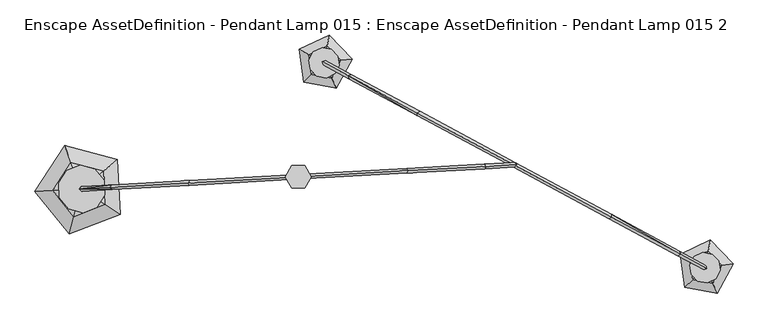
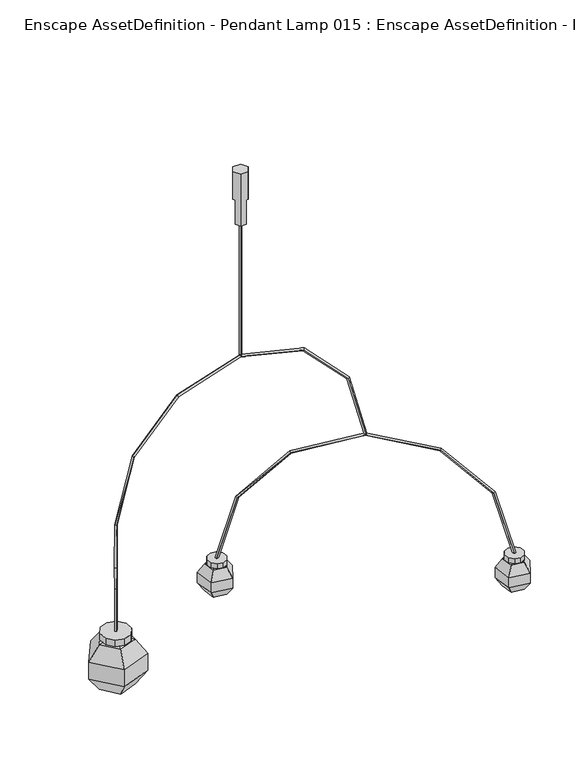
"""IFC4 building model written with IfcOpenShell, lengths in millimetres: geographic element geometry, Enscape AssetDefinition - Pendant Lamp 015 : Enscape AssetDefinition - Pendant Lamp 015 2."""

from ifc_helpers import new_model, si_unit, origin, place, context, project, spatial, triangles, source, transform, mapped, element, save


def enscape_assetdefinition_pendant_lamp_015_enscape_c86082a4(model_context):
    return source(origin(), model_context, "Body", "Tessellation", [
        triangles([(-557.8512691, 74.5107181, -1919.3690357), (-431.7176165, 41.1859263, -1919.3690357), (-431.7176165, 41.1859263, -1847.2525074), (-460.0654138, -66.1098365, -1977.7146023), (-424.4340494, -89.0720068, -1919.3690357), (-464.5664472, 14.3947598, -1977.7146023), (-535.2386959, -95.2678496, -1977.7146023), (-586.1991028, -32.7850469, -1977.7146023), (-517.7176723, -28.9560496, -1999.9998699), (-546.0666687, -136.2518123, -1919.3690357), (-628.5235542, -35.1518901, -1919.3690357), (-542.5222993, 34.9900881, -1977.7146023), (-424.4340494, -89.0720068, -1847.2525074), (-535.2386959, -95.2678496, -1788.9079582), (-546.0666687, -136.2518123, -1847.2525074), (-628.5235542, -35.1518901, -1847.2525074), (-557.8512691, 74.5107181, -1847.2525074), (-586.1991028, -32.7850469, -1788.9079582), (-517.7176723, -28.9560496, -1766.6213825), (-460.0654138, -66.1098365, -1788.9079582), (-464.5664472, 14.3947598, -1788.9079582), (-542.5222993, 34.9900881, -1788.9079582), (128.4402888, 282.1481668, -1892.750457), (128.4402888, 282.1481668, -1936.475695), (73.8115284, 339.3539955, -1892.7491489), (90.9156352, 212.5140451, -1936.475695), (90.9156352, 212.5140451, -1892.750457), (102.9695324, 278.7136381, -1971.850716), (79.7782427, 235.6769845, -1971.850716), (61.7564503, 273.1555653, -1985.363118), (69.2065769, 314.0686566, -1971.850716), (73.8115284, 339.3539955, -1936.475695), (31.681937, 244.435734, -1971.850716), (13.0932324, 226.685582, -1892.750457), (13.0932324, 226.685582, -1936.475695), (25.1483128, 292.8840122, -1971.850716), (2.5227444, 305.0772723, -1936.475695), (31.681937, 244.435734, -1857.3751453), (25.1483128, 292.8840122, -1857.3751453), (2.5227444, 305.0772723, -1892.7491489), (79.7782427, 235.6769845, -1857.3751453), (61.7564503, 273.1555653, -1843.862598), (69.2065769, 314.0686566, -1857.3751453), (102.9695324, 278.7136381, -1857.3751453), (58.1246952, 268.5305569, -1836.8731991), (65.9751971, 270.8832294, -1836.9429623), (128.8371214, 237.0068633, -1578.7016029), (63.6225246, 278.7325504, -1836.8731991), (55.7732036, 276.3798597, -1836.8022732), (127.1753678, 244.4841504, -1575.7905888), (289.7211239, 150.3064141, -1395.1686195), (289.9077222, 156.7880861, -1390.1584602), (121.6775293, 234.2821568, -1575.7905888), (284.4098928, 146.5860925, -1390.1584602), (120.0169657, 241.7594439, -1572.8779758), (284.5965275, 153.0677463, -1385.1472836), (516.3240438, 28.1895425, -1325.2935242), (513.5757377, 23.0897243, -1319.498093), (748.1354393, -96.7323677, -1385.1461208), (519.0735489, 33.2917225, -1319.498093), (748.3231459, -90.2507139, -1390.1572975), (516.3240438, 28.1907234, -1313.7038246), (912.8011877, -185.4713099, -1572.8769585), (974.5234377, -212.1502955, -1836.8731991), (903.9798512, -180.7175484, -1578.6992775), (911.1394432, -177.9928237, -1575.7879726), (743.0119875, -93.9722255, -1395.1686195), (905.6415956, -188.1948355, -1575.7879726), (742.8252983, -100.4526984, -1390.1572975), (966.6740622, -214.5029499, -1836.9345325), (976.874893, -219.9995984, -1836.8117203), (969.0255175, -222.3522709, -1836.8731991), (-511.0104509, -28.580473, -1757.0960918), (-522.3320709, -29.2135216, -1756.9591816), (-516.3547468, -34.5589984, -1757.0276367), (-515.5870611, -34.5153033, -1576.6703316), (-516.2201257, -23.1924774, -1576.6703316), (-521.5643852, -29.1710051, -1576.7068119), (-516.9878114, -23.2349939, -1757.0276367), (-510.2415662, -28.5379565, -1576.6337059), (-517.7554971, -23.2786936, -1486.550687), (-511.7781366, -28.6229917, -1486.5152241), (-517.1224689, -34.6015171, -1486.550687), (-516.9878114, -23.2349939, -1306.1945446), (-523.1009557, -29.2560381, -1486.5871674), (-511.0624463, -28.5828347, -1306.9681892), (-439.6956905, -24.5932141, -1047.9605249), (-522.2801482, -29.2111576, -1305.4197372), (-516.3547468, -34.5589984, -1306.1945446), (-449.4855, -25.1400443, -1042.2618902), (-444.9064917, -19.2052185, -1045.1117889), (-260.3375432, -8.8851147, -859.4798784), (-444.2734634, -30.5280399, -1045.1117889), (-257.1769984, -14.3876733, -864.3824862), (-0.1346408, -0.0141727, -794.4896593), (-259.7044786, -20.2079371, -859.4798784), (-0.4204574, 5.6490102, -788.8193659), (260.2253225, 8.8650368, -862.5506212), (-262.8650052, -14.7053797, -854.576108), (262.8154079, 14.6888438, -857.6846392), (259.5922761, 20.1878598, -862.5506212), (0.2125908, -5.6738122, -788.8193659), (-0.0732257, -0.0106295, -783.1490725), (439.6531786, 24.5766794, -1056.6908787), (257.0022089, 14.3640521, -867.4166033), (449.4949471, 25.1270546, -1051.0820641), (516.1469107, 34.5330166, -1318.0430946), (444.2581301, 30.5138692, -1053.88589), (516.7799389, 23.210193, -1318.0430946), (444.8911946, 19.1898647, -1053.88589), (522.1253975, 29.1887207, -1317.9826332), (510.8025784, 28.5544889, -1318.1032654), (1012.7011946, -211.5396678, -1971.850716), (1038.1718782, -208.1051572, -1936.475695), (1038.1718782, -208.1051572, -1892.750457), (922.8247765, -263.5677239, -1936.475695), (1000.6460438, -277.7380799, -1936.475695), (989.5086422, -254.5751405, -1971.850716), (941.4123774, -245.8175719, -1971.850716), (971.4880852, -217.0965597, -1985.363118), (934.8786919, -197.3681309, -1971.850716), (922.8247765, -263.5677239, -1892.750457), (912.2543461, -185.1760699, -1936.475695), (983.5420006, -150.8981476, -1936.475695), (978.9382118, -176.1834683, -1971.850716), (912.2543461, -185.1760699, -1892.7491489), (934.8786919, -197.3693118, -1857.3751453), (1000.6460438, -277.7380799, -1892.750457), (941.4123774, -245.8175719, -1857.3751453), (978.9382118, -176.1834683, -1857.3751453), (983.5420006, -150.8981476, -1892.7491489), (989.5086422, -254.5751405, -1857.3751453), (1012.7011946, -211.5396678, -1857.3751453), (971.4880852, -217.0965597, -1843.862598), (-5.4895672, 0.0, -34.7680449), (-0.1039333, -5.3856337, -34.7680449), (5.2817009, 0.0, -788.7461872), (-0.1039333, -5.3856337, -788.7461872), (-0.1039333, 5.3856337, -34.7680449), (5.2817009, 0.0, -34.7680449), (-5.4895672, 0.0, -788.7461872), (-0.1039333, 5.3856337, -788.7461872), (-572.1007991, -14.2518531, -1783.9181465), (-572.1007991, -14.2518531, -1756.6873959), (-570.1225041, -49.6293244, -1783.9181465), (-547.7284132, -77.087791, -1756.6873959), (-570.1225041, -49.6293244, -1756.6873959), (-513.4706205, -86.1394369, -1783.9181465), (-547.7284132, -77.087791, -1783.9181465), (-513.4706205, -86.1394369, -1756.6873959), (-480.436336, -73.3261156, -1756.6873959), (-480.436336, -73.3261156, -1783.9181465), (-461.2417228, -43.5421415, -1756.6873959), (-461.2417228, -43.5421415, -1783.9181465), (-463.2200177, -8.163487, -1756.6873959), (-463.2200177, -8.163487, -1783.9181465), (-485.6152714, 19.2937964, -1783.9181465), (-519.8719377, 28.3454423, -1783.9181465), (-519.8719377, 28.3454423, -1756.6873959), (-485.6152714, 19.2937964, -1756.6873959), (-552.9073849, 15.5321222, -1783.9181465), (-552.9073849, 15.5321222, -1756.6873959), (87.116176, 246.5994282, -1833.3501583), (87.116176, 246.5994282, -1854.308036), (44.3369967, 240.8311575, -1854.308036), (97.8815345, 266.5770787, -1833.3501583), (97.8815345, 266.5770787, -1854.308036), (25.6313661, 279.73407, -1854.308036), (66.6637589, 236.765926, -1833.3501583), (66.6637589, 236.765926, -1854.308036), (28.6643296, 257.2431463, -1833.3501583), (28.6643296, 257.2431463, -1854.308036), (44.3369967, 240.8311575, -1833.3501583), (25.6313661, 279.73407, -1833.3501583), (36.39791, 299.7116841, -1833.3501583), (36.39791, 299.7116841, -1854.308036), (56.8503317, 309.5452409, -1854.308036), (56.8491463, 309.5452409, -1833.3501583), (94.849761, 289.0680206, -1854.308036), (79.1759085, 305.479973, -1854.308036), (79.1759085, 305.479973, -1833.3501583), (94.849761, 289.0680206, -1833.3501583), (996.4084391, -243.4165011, -1854.308036), (1007.1750057, -223.4388506, -1833.3501583), (1004.1419786, -200.9491078, -1833.3501583), (1007.1750057, -223.4388506, -1854.308036), (1004.1419786, -200.9491078, -1854.308036), (953.6303816, -249.18479, -1854.308036), (953.6303816, -249.18479, -1833.3501583), (975.9572165, -253.2511661, -1854.308036), (975.9572165, -253.2511661, -1833.3501583), (937.956629, -232.7727831, -1854.308036), (937.956629, -232.7727831, -1833.3501583), (996.4084391, -243.4165011, -1833.3501583), (934.9248373, -210.2830221, -1833.3501583), (966.1426266, -180.4707248, -1833.3501583), (945.6900959, -190.3053716, -1854.308036), (945.6900959, -190.3053716, -1833.3501583), (988.4692434, -184.53592, -1854.308036), (966.1426266, -180.4707248, -1854.308036), (934.9248373, -210.2830221, -1854.308036), (988.4692434, -184.53592, -1833.3501583), (-11.176372, -19.1780536, -225.5966404), (10.9673243, -19.1780536, -115.6198776), (15.2911849, -26.6647946, -115.6198776), (10.9673243, -19.1780536, -225.5966404), (22.0397612, 0.0, -225.5966404), (-11.176372, 19.1768727, -225.5966404), (-22.24881, 0.0, -225.5966404), (10.9673243, 19.1768727, -225.5966404), (10.9673243, 19.1768727, -115.6198776), (-11.176372, 19.1768727, -115.6198776), (-30.8941671, 0.0, -115.6198776), (-22.24881, 0.0, -115.6198776), (-11.176372, -19.1780536, -115.6198776), (-15.4990517, 26.6647946, -115.6198776), (15.2911849, 26.6647946, 0.0), (15.2911849, 26.6647946, -115.6198776), (-15.4990517, 26.6647946, 0.0), (-30.8941671, 0.0, 0.0), (30.6863037, 0.0, -115.6198776), (30.6863037, 0.0, 0.0), (22.0397612, 0.0, -115.6198776), (15.2911849, -26.6647946, 0.0), (-15.4990517, -26.6647946, 0.0), (-15.4990517, -26.6647946, -115.6198776)], [[226, 225, 220], [224, 225, 226], [220, 225, 224], [224, 226, 205], [223, 221, 205], [224, 222, 220], [222, 224, 205], [222, 205, 221], [217, 219, 220], [222, 217, 220], [218, 217, 222], [223, 218, 221], [218, 222, 221], [223, 211, 218], [216, 219, 217], [211, 216, 218], [216, 217, 218], [213, 220, 219], [213, 219, 216], [226, 220, 213], [215, 226, 213], [203, 215, 214], [215, 213, 214], [203, 214, 209], [211, 212, 216], [212, 214, 213], [212, 213, 216], [210, 211, 223], [212, 211, 210], [214, 212, 208], [203, 209, 208], [214, 208, 209], [212, 210, 208], [208, 210, 207], [210, 223, 207], [208, 207, 203], [207, 206, 203], [204, 205, 226], [207, 223, 204], [204, 215, 203], [204, 226, 215], [223, 205, 204], [207, 204, 206], [204, 203, 206], [202, 185, 187], [199, 187, 201], [202, 187, 199], [200, 199, 201], [185, 202, 196], [199, 200, 196], [199, 196, 202], [198, 196, 200], [201, 197, 200], [198, 200, 197], [194, 185, 195], [196, 198, 195], [197, 201, 195], [185, 196, 195], [197, 195, 198], [195, 201, 192], [195, 192, 193], [195, 189, 194], [189, 191, 194], [195, 193, 189], [189, 193, 192], [194, 191, 190], [189, 190, 191], [189, 188, 190], [188, 192, 201], [189, 192, 188], [187, 188, 201], [187, 186, 188], [185, 186, 187], [194, 184, 185], [185, 184, 186], [183, 190, 188], [186, 183, 188], [183, 186, 184], [194, 190, 183], [183, 184, 194], [181, 182, 179], [180, 179, 168], [181, 179, 180], [177, 180, 168], [182, 181, 178], [180, 177, 178], [180, 178, 181], [175, 178, 177], [168, 176, 177], [175, 177, 176], [163, 182, 174], [178, 175, 174], [176, 168, 174], [182, 178, 174], [176, 174, 175], [174, 168, 172], [174, 172, 171], [174, 173, 163], [173, 169, 163], [174, 171, 173], [173, 171, 172], [163, 169, 170], [173, 170, 169], [173, 165, 170], [165, 172, 168], [173, 172, 165], [179, 165, 168], [179, 167, 165], [182, 167, 179], [163, 166, 182], [182, 166, 167], [164, 170, 165], [167, 164, 165], [164, 167, 166], [163, 170, 164], [164, 166, 163], [162, 147, 160], [162, 144, 147], [160, 159, 162], [161, 162, 159], [157, 159, 160], [157, 158, 159], [161, 159, 158], [156, 157, 160], [158, 157, 156], [156, 160, 155], [154, 156, 155], [154, 152, 158], [156, 154, 158], [153, 155, 160], [152, 154, 153], [154, 155, 153], [151, 153, 160], [152, 153, 151], [150, 151, 160], [147, 150, 160], [150, 152, 151], [150, 148, 152], [147, 146, 150], [148, 150, 146], [152, 148, 149], [148, 146, 149], [146, 147, 145], [146, 145, 149], [143, 144, 162], [147, 144, 143], [149, 143, 152], [143, 161, 158], [149, 145, 143], [143, 162, 161], [147, 143, 145], [143, 158, 152], [139, 135, 136], [138, 141, 142], [140, 136, 138], [136, 135, 141], [135, 139, 142], [139, 140, 137], [139, 136, 140], [138, 142, 137], [140, 138, 137], [136, 141, 138], [135, 142, 141], [139, 137, 142], [133, 132, 128], [132, 133, 134], [131, 130, 133], [133, 130, 134], [130, 127, 134], [128, 132, 129], [129, 132, 134], [127, 129, 134], [129, 127, 126], [126, 131, 124], [126, 127, 130], [126, 130, 131], [128, 129, 122], [129, 126, 122], [122, 126, 123], [126, 124, 123], [123, 124, 125], [123, 125, 121], [128, 122, 116], [116, 123, 121], [122, 123, 116], [116, 121, 119], [121, 125, 120], [119, 121, 120], [113, 125, 124], [113, 120, 125], [113, 118, 120], [120, 118, 119], [117, 116, 119], [128, 116, 117], [117, 119, 118], [115, 128, 117], [133, 128, 115], [131, 133, 115], [114, 117, 118], [114, 124, 131], [115, 117, 114], [113, 124, 114], [114, 118, 113], [114, 131, 115], [112, 111, 109], [112, 107, 111], [108, 107, 112], [108, 112, 104], [112, 109, 110], [112, 110, 104], [109, 111, 106], [106, 111, 107], [109, 106, 110], [106, 107, 108], [106, 108, 101], [106, 101, 100], [108, 104, 105], [105, 104, 110], [108, 105, 101], [98, 110, 106], [98, 106, 100], [105, 110, 98], [102, 98, 100], [102, 100, 103], [102, 103, 99], [100, 101, 97], [99, 103, 97], [100, 97, 103], [101, 105, 95], [95, 105, 98], [101, 95, 97], [95, 98, 102], [95, 102, 96], [102, 99, 96], [96, 99, 90], [92, 97, 95], [90, 99, 92], [99, 97, 92], [92, 95, 94], [95, 96, 94], [94, 96, 93], [96, 90, 93], [93, 90, 88], [91, 92, 94], [88, 90, 91], [90, 92, 91], [91, 94, 87], [94, 93, 87], [87, 93, 89], [93, 88, 89], [89, 88, 85], [84, 91, 87], [85, 88, 84], [88, 91, 84], [84, 87, 86], [87, 89, 86], [86, 89, 83], [89, 85, 83], [83, 85, 78], [83, 78, 76], [81, 84, 86], [78, 85, 81], [85, 84, 81], [82, 83, 76], [81, 86, 82], [86, 83, 82], [82, 76, 80], [77, 81, 82], [78, 81, 77], [77, 82, 80], [78, 77, 79], [78, 79, 74], [75, 76, 78], [75, 78, 74], [74, 79, 73], [77, 80, 73], [73, 80, 76], [74, 73, 75], [77, 73, 79], [73, 76, 75], [72, 71, 63], [63, 71, 64], [72, 64, 71], [72, 70, 64], [70, 72, 68], [72, 63, 68], [70, 68, 65], [69, 68, 63], [67, 65, 68], [57, 67, 69], [67, 68, 69], [66, 64, 70], [66, 65, 67], [63, 64, 66], [66, 70, 65], [63, 66, 61], [61, 67, 57], [66, 67, 61], [69, 63, 59], [63, 61, 59], [58, 69, 59], [57, 69, 58], [58, 59, 62], [59, 61, 60], [59, 60, 62], [61, 57, 60], [58, 62, 56], [56, 62, 60], [57, 58, 54], [58, 56, 54], [54, 56, 55], [54, 55, 53], [52, 60, 57], [55, 56, 52], [56, 60, 52], [51, 54, 53], [52, 57, 51], [57, 54, 51], [51, 53, 47], [50, 52, 51], [55, 52, 50], [50, 51, 47], [55, 50, 48], [55, 48, 49], [45, 49, 48], [45, 53, 55], [45, 55, 49], [50, 47, 46], [46, 47, 53], [45, 48, 46], [50, 46, 48], [46, 53, 45], [44, 41, 27], [41, 44, 42], [25, 43, 44], [44, 43, 42], [43, 39, 42], [27, 41, 38], [38, 41, 42], [39, 38, 42], [38, 39, 40], [40, 25, 32], [40, 39, 43], [40, 43, 25], [27, 38, 34], [38, 40, 34], [34, 40, 37], [40, 32, 37], [37, 32, 31], [37, 31, 36], [27, 34, 35], [35, 37, 36], [34, 37, 35], [35, 36, 33], [36, 31, 30], [33, 36, 30], [28, 31, 32], [28, 30, 31], [28, 29, 30], [30, 29, 33], [26, 35, 33], [27, 35, 26], [26, 33, 29], [23, 27, 26], [44, 27, 23], [25, 44, 23], [24, 26, 29], [24, 32, 25], [23, 26, 24], [28, 32, 24], [24, 29, 28], [24, 25, 23], [21, 20, 13], [20, 21, 19], [17, 22, 21], [21, 22, 19], [22, 18, 19], [13, 20, 14], [14, 20, 19], [18, 14, 19], [14, 18, 16], [16, 17, 1], [16, 18, 22], [16, 22, 17], [13, 14, 15], [14, 16, 15], [15, 16, 11], [16, 1, 11], [11, 1, 12], [11, 12, 8], [13, 15, 10], [10, 11, 8], [15, 11, 10], [10, 8, 7], [8, 12, 9], [7, 8, 9], [6, 12, 1], [6, 9, 12], [6, 4, 9], [9, 4, 7], [5, 10, 7], [13, 10, 5], [5, 7, 4], [3, 13, 5], [21, 13, 3], [17, 21, 3], [2, 5, 4], [2, 1, 17], [3, 5, 2], [6, 1, 2], [2, 4, 6], [2, 17, 3]]),
    ])


if __name__ == "__main__":
    model = new_model("IFC4")
    model_context = context("Model", 3, world=origin())
    ifc_project = project(units=[si_unit("LENGTHUNIT", "METRE", prefix="MILLI")], contexts=[model_context])
    site = spatial("IfcSite", under=ifc_project)
    building = spatial("IfcBuilding", under=site)
    placement = place(None, origin())
    enscape_assetdefinition_pendant_lamp_015_enscape_shape = enscape_assetdefinition_pendant_lamp_015_enscape_c86082a4(model_context)
    element("IfcGeographicElement", 1, ObjectType="Enscape AssetDefinition - Pendant Lamp 015 : Enscape AssetDefinition - Pendant Lamp 015 2", at=placement, inside=building, context=model_context, shape_type="MappedRepresentation", body=[
        mapped(enscape_assetdefinition_pendant_lamp_015_enscape_shape, transform((0.0, 0.0, 0.0), x_axis=(1.0, 0.0, 0.0), y_axis=(0.0, 1.0, 0.0), z_axis=(0.0, 0.0, 1.0))),
    ])
    save(model, "model.ifc")
